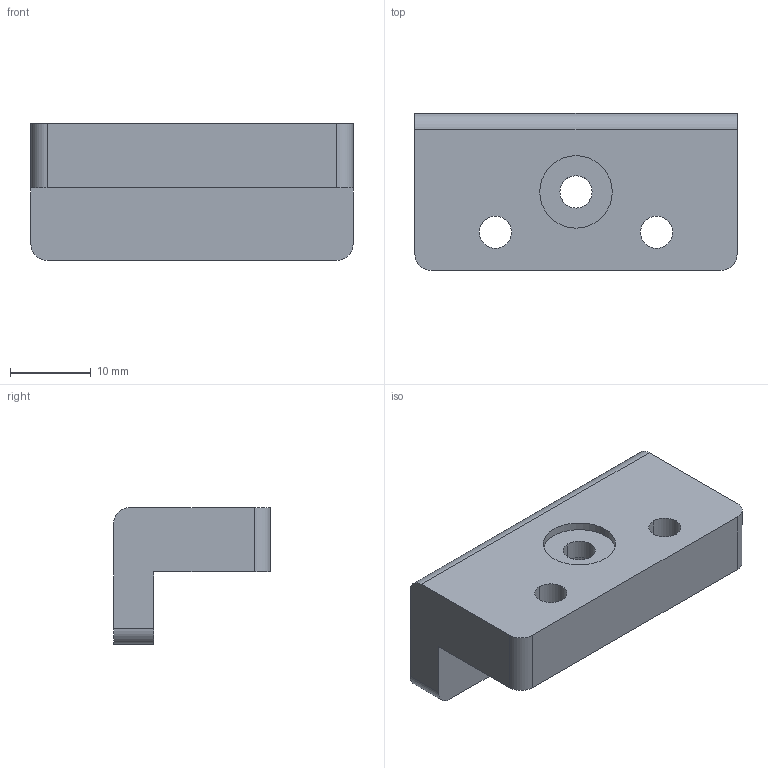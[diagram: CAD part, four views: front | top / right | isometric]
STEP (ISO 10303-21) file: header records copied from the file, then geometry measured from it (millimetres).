
FILE_DESCRIPTION (( 'STEP AP214' ), '1' );
FILE_NAME ('A.STEP', '2023-05-04T07:52:48', ( 'ay' ), ( '' ), 'SwSTEP 2.0', 'SolidWorks 2020', '' );
FILE_SCHEMA (( 'AUTOMOTIVE_DESIGN' ));
Length unit declared in the file: millimetre
Products named in the file (1): A
Bounding box: 40 x 19.5 x 17 mm (x, y, z)
Volume: 7514.1 mm3; surface area: 3541.1 mm2
Topology: 1 solids, 1 shells, 25 faces, 63 edges, 42 vertices
Faces by surface type: cylinder 15, plane 10
Entity records: 813 total; most frequent: DIRECTION 145, CARTESIAN_POINT 131, ORIENTED_EDGE 126, EDGE_CURVE 63, AXIS2_PLACEMENT_3D 56, VERTEX_POINT 42, VECTOR 33, LINE 33
